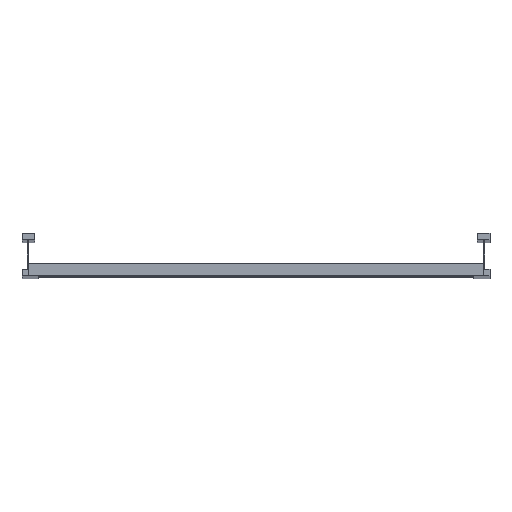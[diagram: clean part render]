
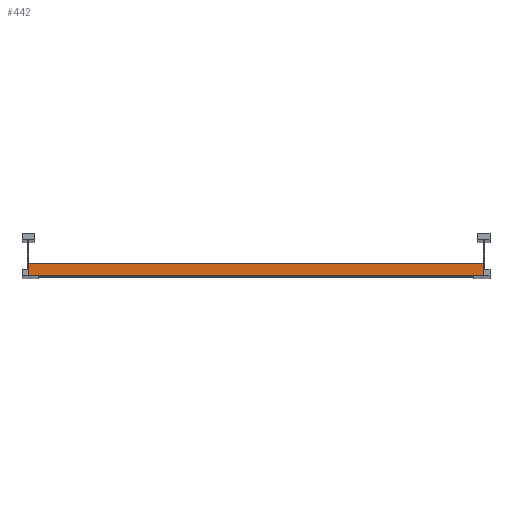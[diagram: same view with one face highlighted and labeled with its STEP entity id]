
A CAD part, top view. The second image highlights one B-rep face of the part: STEP entity #442.
In plain terms, the highlighted planar face has unit normal (0, 0, 1).
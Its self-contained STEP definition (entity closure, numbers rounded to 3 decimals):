
#132 = EDGE_LOOP ( 'NONE', ( #4208, #3850, #4415, #4869 ) ) ;
#360 = CARTESIAN_POINT ( 'NONE',  ( 398.5, 20., 20.25 ) ) ;
#442 = ADVANCED_FACE ( 'NONE', ( #2038 ), #4360, .F. ) ;
#511 = LINE ( 'NONE', #896, #5591 ) ;
#520 = VERTEX_POINT ( 'NONE', #3423 ) ;
#896 = CARTESIAN_POINT ( 'NONE',  ( -398.5, 20., 20.25 ) ) ;
#1084 = LINE ( 'NONE', #3027, #5855 ) ;
#1853 = VERTEX_POINT ( 'NONE', #2063 ) ;
#1907 = CARTESIAN_POINT ( 'NONE',  ( -398.5, 0., 20.25 ) ) ;
#2038 = FACE_OUTER_BOUND ( 'NONE', #132, .T. ) ;
#2063 = CARTESIAN_POINT ( 'NONE',  ( -398.5, 20., 20.25 ) ) ;
#2084 = CARTESIAN_POINT ( 'NONE',  ( 398.5, 20., 20.25 ) ) ;
#2399 = LINE ( 'NONE', #360, #5396 ) ;
#2616 = DIRECTION ( 'NONE',  ( 0., -1., 0. ) ) ;
#2949 = CARTESIAN_POINT ( 'NONE',  ( 398.5, 20., 20.25 ) ) ;
#3027 = CARTESIAN_POINT ( 'NONE',  ( 398.5, 0., 20.25 ) ) ;
#3363 = EDGE_CURVE ( 'NONE', #1853, #3456, #511, .T. ) ;
#3423 = CARTESIAN_POINT ( 'NONE',  ( 398.5, 0., 20.25 ) ) ;
#3456 = VERTEX_POINT ( 'NONE', #1907 ) ;
#3500 = DIRECTION ( 'NONE',  ( -1., 0., 0. ) ) ;
#3590 = EDGE_CURVE ( 'NONE', #520, #3456, #1084, .T. ) ;
#3850 = ORIENTED_EDGE ( 'NONE', *, *, #3590, .F. ) ;
#3953 = DIRECTION ( 'NONE',  ( 0., 1., 0. ) ) ;
#4208 = ORIENTED_EDGE ( 'NONE', *, *, #3363, .T. ) ;
#4360 = PLANE ( 'NONE',  #5394 ) ;
#4415 = ORIENTED_EDGE ( 'NONE', *, *, #5566, .F. ) ;
#4730 = DIRECTION ( 'NONE',  ( 0., -1., 0. ) ) ;
#4869 = ORIENTED_EDGE ( 'NONE', *, *, #5257, .T. ) ;
#5093 = CARTESIAN_POINT ( 'NONE',  ( 398.5, 20., 20.25 ) ) ;
#5257 = EDGE_CURVE ( 'NONE', #5597, #1853, #2399, .T. ) ;
#5294 = VECTOR ( 'NONE', #2616, 1000. ) ;
#5394 = AXIS2_PLACEMENT_3D ( 'NONE', #2949, #5887, #3953 ) ;
#5396 = VECTOR ( 'NONE', #5599, 1000. ) ;
#5556 = LINE ( 'NONE', #2084, #5294 ) ;
#5566 = EDGE_CURVE ( 'NONE', #5597, #520, #5556, .T. ) ;
#5591 = VECTOR ( 'NONE', #4730, 1000. ) ;
#5597 = VERTEX_POINT ( 'NONE', #5093 ) ;
#5599 = DIRECTION ( 'NONE',  ( -1., 0., 0. ) ) ;
#5855 = VECTOR ( 'NONE', #3500, 1000. ) ;
#5887 = DIRECTION ( 'NONE',  ( 0., 0., -1. ) ) ;
